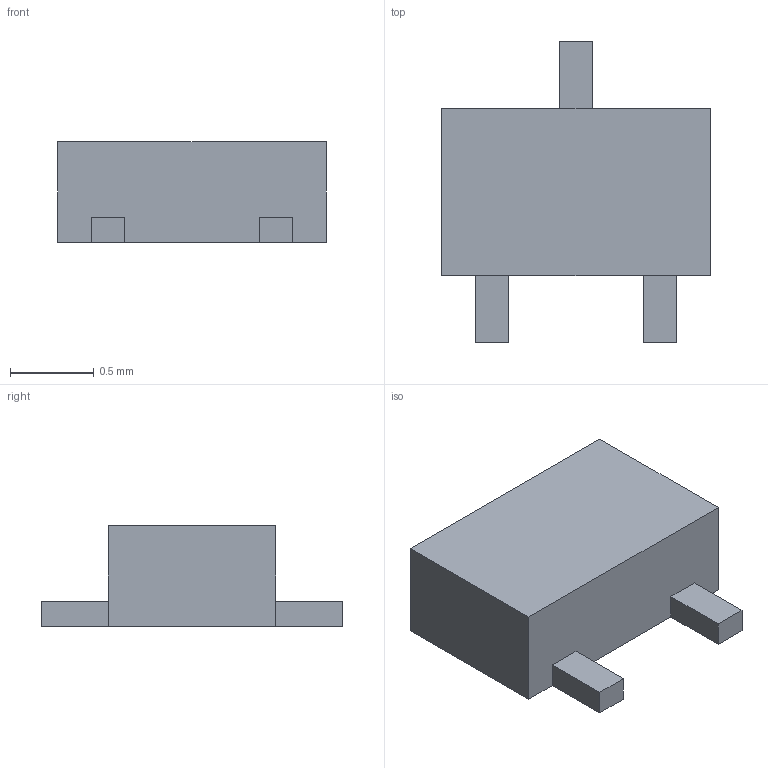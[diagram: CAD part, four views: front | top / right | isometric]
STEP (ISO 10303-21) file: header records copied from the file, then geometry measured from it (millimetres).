
FILE_DESCRIPTION(/* description */ ('STEP AP242 Edition 2','CAx-IF Rec.Pracs.---Representation and Presentation of Product Manufacturing Information (PMI)---4.0---2014-10-13','CAx-IF Rec.Pracs.---3D Tessellated Geometry---0.4---2014-09-14','2;1','CAx-IF Rec.Pracs.---User Defined Attributes---1.5---2016-08-15'),/* implementation_level */ '2;1');
FILE_NAME(/* name */ 'HIRO_Assembly - Q1, MOSFET, DMG1012T, Raspberry Pi Pico-R3',/* time_stamp */ '2026-11-04T05:23:21Z',/* author */ (''),/* organization */ (''),/* preprocessor_version */ 'ST-DEVELOPER v20',/* originating_system */ 'ONSHAPE BY PTC INC, 1.223',/* authorisation */ ' ');
FILE_SCHEMA (('AP242_MANAGED_MODEL_BASED_3D_ENGINEERING_MIM_LF { 1 0 10303 442 3 1 4 }'));
Length unit declared in the file: metre
Products named in the file (1): Q1, MOSFET, DMG1012T, Raspberry Pi Pico-R3
Bounding box: 1.6 x 1.8 x 0.6 mm (x, y, z)
Volume: 1 mm3; surface area: 7.2 mm2
Topology: 1 solids, 1 shells, 18 faces, 48 edges, 32 vertices
Faces by surface type: plane 18
Entity records: 702 total; most frequent: CARTESIAN_POINT 99, ORIENTED_EDGE 96, DIRECTION 86, EDGE_CURVE 48, LINE 48, VECTOR 48, VERTEX_POINT 32, PRESENTATION_STYLE_ASSIGNMENT 19
